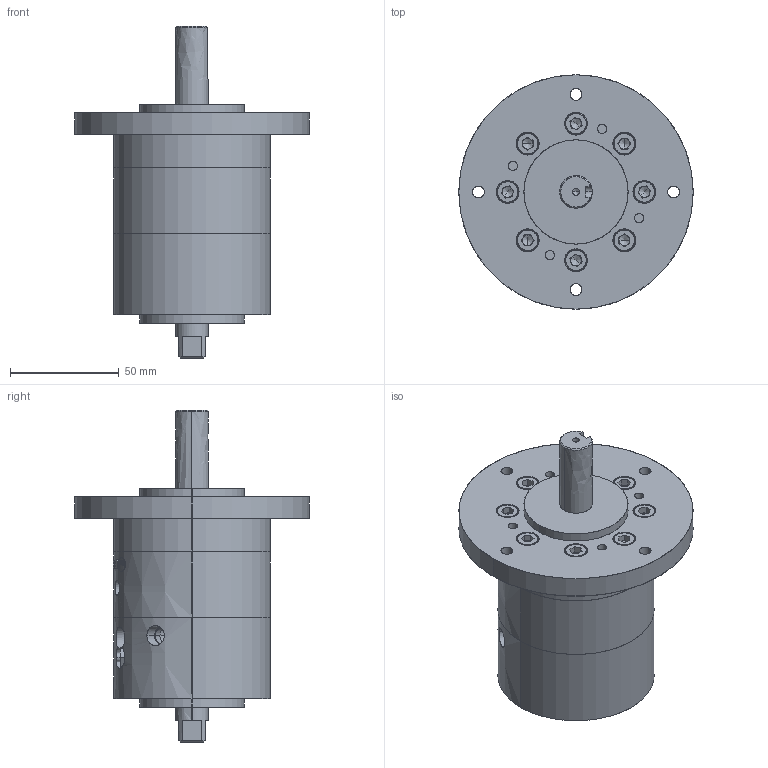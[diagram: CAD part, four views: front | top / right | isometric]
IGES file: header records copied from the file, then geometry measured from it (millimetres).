
Start section: SolidWorks IGES file using analytic representation for surfaces
Global section: file name: C:\Users\Chieh_Lu\Dropbox\¤u§@«Ç\HRN\HRN20S-C.IGS; native system: SolidWorks 2014; preprocessor: SolidWorks 2014; author: Chieh_Lu; date: 160115.005930; units: millimetre
Bounding box: 108 x 108 x 153 mm (x, y, z)
Surface area: 96423.8 mm2 (no closed solid volume)
Topology: 0 solids, 0 shells, 787 faces, 10072 edges, 10024 vertices
Faces by surface type: bspline 461, revolution 326
